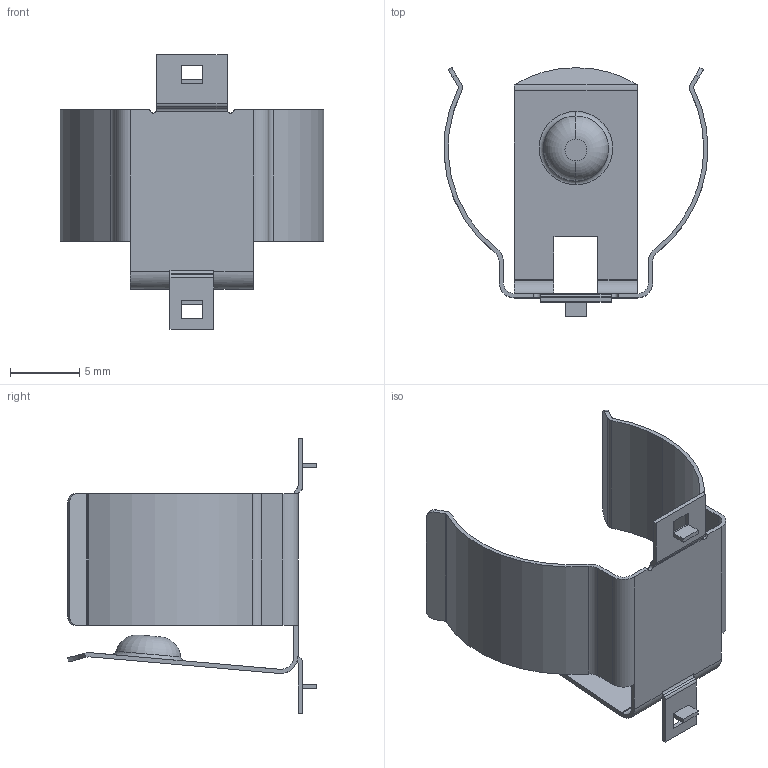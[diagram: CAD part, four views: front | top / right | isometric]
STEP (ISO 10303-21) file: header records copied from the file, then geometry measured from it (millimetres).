
FILE_DESCRIPTION (( 'STEP AP214' ), '1' );
FILE_NAME ('Battery Holder (36-254-ND).STEP', '2022-03-16T15:51:27', ( '' ), ( '' ), 'SwSTEP 2.0', 'SolidWorks 2021', '' );
FILE_SCHEMA (( 'AUTOMOTIVE_DESIGN' ));
Length unit declared in the file: inch
Products named in the file (1): Battery Holder (36-254-ND)
Bounding box: 19.1 x 17.99 x 19.89 mm (x, y, z)
Volume: 212.2 mm3; surface area: 1321.6 mm2
Topology: 1 solids, 1 shells, 109 faces, 300 edges, 192 vertices
Faces by surface type: plane 57, cylinder 48, torus 4
Entity records: 3526 total; most frequent: DIRECTION 628, CARTESIAN_POINT 608, ORIENTED_EDGE 600, EDGE_CURVE 300, AXIS2_PLACEMENT_3D 220, VERTEX_POINT 192, LINE 188, VECTOR 188
